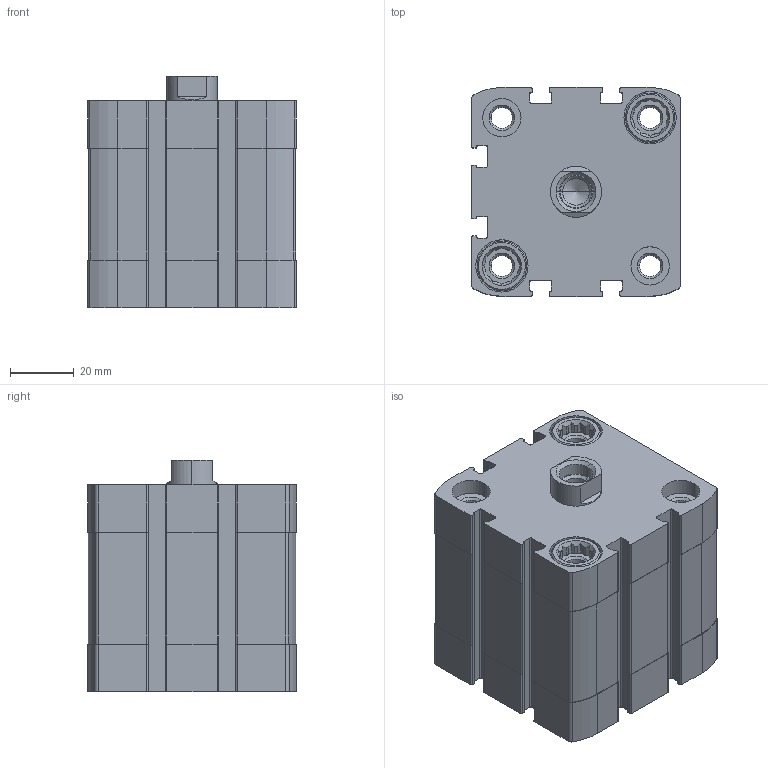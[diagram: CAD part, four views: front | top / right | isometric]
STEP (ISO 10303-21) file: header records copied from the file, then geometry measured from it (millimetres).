
FILE_DESCRIPTION (( 'STEP AP203' ), '1' );
FILE_NAME ('CCN50-20F.STEP', '2017-04-06T12:55:23', ( '' ), ( '' ), 'SwSTEP 2.0', 'SolidWorks 2016', '' );
FILE_SCHEMA (( 'CONFIG_CONTROL_DESIGN' ));
Length unit declared in the file: millimetre
Products named in the file (3): CCN-20----(Z); CCN-20_(KS); CCN50-20F
Assembly tree (2 placements, depth 2):
  CCN50-20F
    CCN-20----(Z)
    CCN-20_(KS)
Bounding box: 65.5 x 65.5 x 72.7 mm (x, y, z)
Volume: 212334.1 mm3; surface area: 56990.9 mm2
Topology: 2 solids, 2 shells, 471 faces, 1270 edges, 833 vertices
Faces by surface type: plane 219, cylinder 210, cone 42
Entity records: 15269 total; most frequent: CARTESIAN_POINT 2871, DIRECTION 2588, ORIENTED_EDGE 2536, EDGE_CURVE 1268, AXIS2_PLACEMENT_3D 942, VERTEX_POINT 833, VECTOR 704, LINE 704
